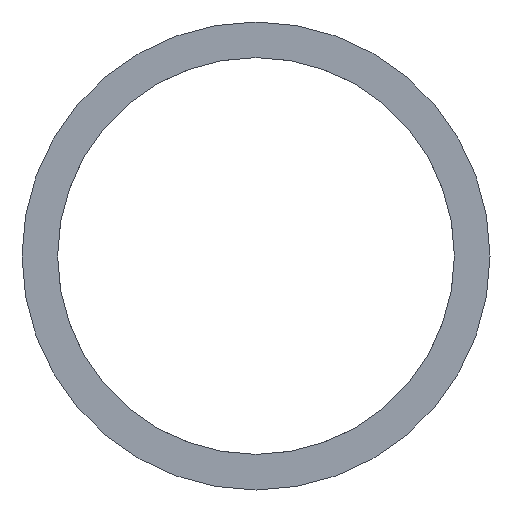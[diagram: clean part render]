
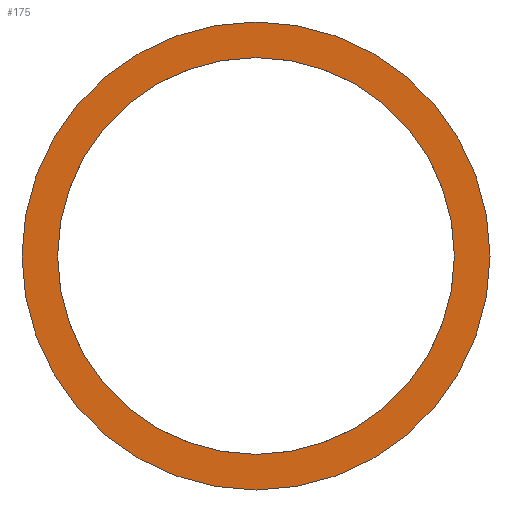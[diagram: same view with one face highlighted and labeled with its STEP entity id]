
A CAD part, front view. The second image highlights one B-rep face of the part: STEP entity #175.
In plain terms, the highlighted planar face has unit normal (0, -1, 0).
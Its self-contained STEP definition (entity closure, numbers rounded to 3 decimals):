
#2 = AXIS2_PLACEMENT_3D ( 'NONE', #245, #68, #36 ) ;
#4 = VERTEX_POINT ( 'NONE', #167 ) ;
#6 = ORIENTED_EDGE ( 'NONE', *, *, #202, .F. ) ;
#12 = DIRECTION ( 'NONE',  ( 0., 0., -1. ) ) ;
#18 = CIRCLE ( 'NONE', #146, 27.125 ) ;
#32 = AXIS2_PLACEMENT_3D ( 'NONE', #66, #296, #95 ) ;
#34 = CARTESIAN_POINT ( 'NONE',  ( 0., 0., 23. ) ) ;
#36 = DIRECTION ( 'NONE',  ( 0., 0., -1. ) ) ;
#41 = EDGE_CURVE ( 'NONE', #312, #189, #18, .T. ) ;
#56 = DIRECTION ( 'NONE',  ( 0., 0., -1. ) ) ;
#66 = CARTESIAN_POINT ( 'NONE',  ( 0., 0., 0. ) ) ;
#68 = DIRECTION ( 'NONE',  ( 0., -1., 0. ) ) ;
#86 = CARTESIAN_POINT ( 'NONE',  ( 0., 0., 0. ) ) ;
#90 = EDGE_LOOP ( 'NONE', ( #305, #351 ) ) ;
#95 = DIRECTION ( 'NONE',  ( 0., 0., -1. ) ) ;
#109 = AXIS2_PLACEMENT_3D ( 'NONE', #270, #331, #12 ) ;
#111 = EDGE_CURVE ( 'NONE', #156, #4, #279, .T. ) ;
#118 = ORIENTED_EDGE ( 'NONE', *, *, #111, .F. ) ;
#128 = DIRECTION ( 'NONE',  ( 0., -1., 0. ) ) ;
#146 = AXIS2_PLACEMENT_3D ( 'NONE', #86, #322, #56 ) ;
#156 = VERTEX_POINT ( 'NONE', #34 ) ;
#165 = CIRCLE ( 'NONE', #2, 27.125 ) ;
#166 = DIRECTION ( 'NONE',  ( 0., 0., -1. ) ) ;
#167 = CARTESIAN_POINT ( 'NONE',  ( 0., 0., -23. ) ) ;
#175 = ADVANCED_FACE ( 'NONE', ( #298, #215 ), #241, .T. ) ;
#181 = EDGE_CURVE ( 'NONE', #189, #312, #165, .T. ) ;
#189 = VERTEX_POINT ( 'NONE', #242 ) ;
#192 = CARTESIAN_POINT ( 'NONE',  ( 0., 0., 0. ) ) ;
#202 = EDGE_CURVE ( 'NONE', #4, #156, #291, .T. ) ;
#215 = FACE_BOUND ( 'NONE', #268, .T. ) ;
#241 = PLANE ( 'NONE',  #109 ) ;
#242 = CARTESIAN_POINT ( 'NONE',  ( 0., 0., -27.125 ) ) ;
#245 = CARTESIAN_POINT ( 'NONE',  ( 0., 0., 0. ) ) ;
#268 = EDGE_LOOP ( 'NONE', ( #6, #118 ) ) ;
#270 = CARTESIAN_POINT ( 'NONE',  ( 23., 0., 0. ) ) ;
#279 = CIRCLE ( 'NONE', #32, 23. ) ;
#291 = CIRCLE ( 'NONE', #358, 23. ) ;
#296 = DIRECTION ( 'NONE',  ( 0., -1., 0. ) ) ;
#298 = FACE_OUTER_BOUND ( 'NONE', #90, .T. ) ;
#305 = ORIENTED_EDGE ( 'NONE', *, *, #181, .T. ) ;
#312 = VERTEX_POINT ( 'NONE', #343 ) ;
#322 = DIRECTION ( 'NONE',  ( 0., -1., 0. ) ) ;
#331 = DIRECTION ( 'NONE',  ( 0., -1., 0. ) ) ;
#343 = CARTESIAN_POINT ( 'NONE',  ( 0., 0., 27.125 ) ) ;
#351 = ORIENTED_EDGE ( 'NONE', *, *, #41, .T. ) ;
#358 = AXIS2_PLACEMENT_3D ( 'NONE', #192, #128, #166 ) ;
